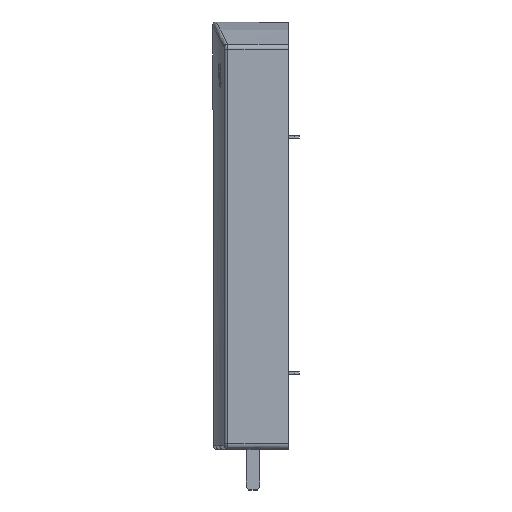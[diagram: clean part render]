
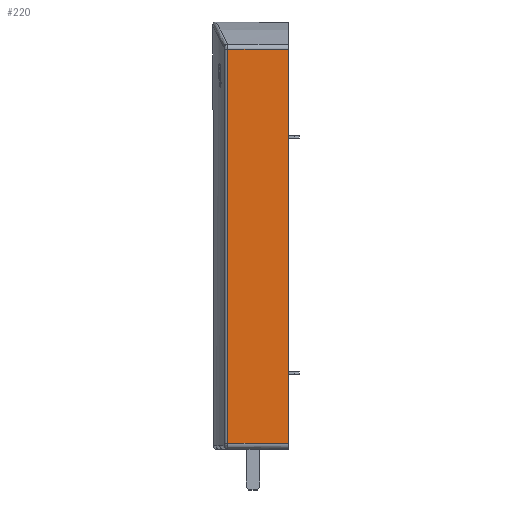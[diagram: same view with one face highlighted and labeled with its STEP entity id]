
A CAD part, top view. The second image highlights one B-rep face of the part: STEP entity #220.
In plain terms, the highlighted planar face has unit normal (0, 0, 1).
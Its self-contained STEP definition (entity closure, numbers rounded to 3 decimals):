
#220 = ADVANCED_FACE ( 'NONE', ( #1197 ), #1205, .T. ) ;
#255 = EDGE_CURVE ( 'NONE', #9741, #9698, #1346, .T. ) ;
#257 = EDGE_CURVE ( 'NONE', #9744, #11277, #1353, .T. ) ;
#258 = EDGE_CURVE ( 'NONE', #9741, #9744, #1352, .T. ) ;
#1196 = CARTESIAN_POINT ( 'NONE',  ( -41.001, 207.096, 22.754 ) ) ;
#1197 = FACE_OUTER_BOUND ( 'NONE', #8643, .T. ) ;
#1205 = PLANE ( 'NONE',  #11866 ) ;
#1208 = DIRECTION ( 'NONE',  ( 0., 0., 1. ) ) ;
#1209 = DIRECTION ( 'NONE',  ( -1., 0., 0. ) ) ;
#1346 = LINE ( 'NONE', #1350, #11893 ) ;
#1350 = CARTESIAN_POINT ( 'NONE',  ( -41.001, -6.062, 22.754 ) ) ;
#1351 = DIRECTION ( 'NONE',  ( 1., 0., 0. ) ) ;
#1352 = LINE ( 'NONE', #1365, #10068 ) ;
#1353 = LINE ( 'NONE', #1363, #10066 ) ;
#1363 = CARTESIAN_POINT ( 'NONE',  ( -41.001, 207.096, 22.754 ) ) ;
#1364 = DIRECTION ( 'NONE',  ( 1., 0., 0. ) ) ;
#1365 = CARTESIAN_POINT ( 'NONE',  ( -32.709, 207.096, 22.754 ) ) ;
#1366 = DIRECTION ( 'NONE',  ( 0., 1., 0. ) ) ;
#3118 = CARTESIAN_POINT ( 'NONE',  ( 0., 207.096, 22.754 ) ) ;
#5240 = CARTESIAN_POINT ( 'NONE',  ( 0., -6.062, 22.754 ) ) ;
#5280 = CARTESIAN_POINT ( 'NONE',  ( -32.709, -6.062, 22.754 ) ) ;
#5283 = CARTESIAN_POINT ( 'NONE',  ( -32.709, 207.096, 22.754 ) ) ;
#6568 = CARTESIAN_POINT ( 'NONE',  ( 0., 207.096, 22.754 ) ) ;
#6569 = LINE ( 'NONE', #6568, #12273 ) ;
#6581 = DIRECTION ( 'NONE',  ( 0., 1., 0. ) ) ;
#7833 = EDGE_CURVE ( 'NONE', #9698, #11277, #6569, .T. ) ;
#8643 = EDGE_LOOP ( 'NONE', ( #9059, #9060, #9061, #9062 ) ) ;
#9059 = ORIENTED_EDGE ( 'NONE', *, *, #255, .T. ) ;
#9060 = ORIENTED_EDGE ( 'NONE', *, *, #7833, .T. ) ;
#9061 = ORIENTED_EDGE ( 'NONE', *, *, #257, .F. ) ;
#9062 = ORIENTED_EDGE ( 'NONE', *, *, #258, .F. ) ;
#9698 = VERTEX_POINT ( 'NONE', #5240 ) ;
#9741 = VERTEX_POINT ( 'NONE', #5280 ) ;
#9744 = VERTEX_POINT ( 'NONE', #5283 ) ;
#10066 = VECTOR ( 'NONE', #1364, 1000. ) ;
#10068 = VECTOR ( 'NONE', #1366, 1000. ) ;
#11277 = VERTEX_POINT ( 'NONE', #3118 ) ;
#11866 = AXIS2_PLACEMENT_3D ( 'NONE', #1196, #1208, #1209 ) ;
#11893 = VECTOR ( 'NONE', #1351, 1000. ) ;
#12273 = VECTOR ( 'NONE', #6581, 1000. ) ;
